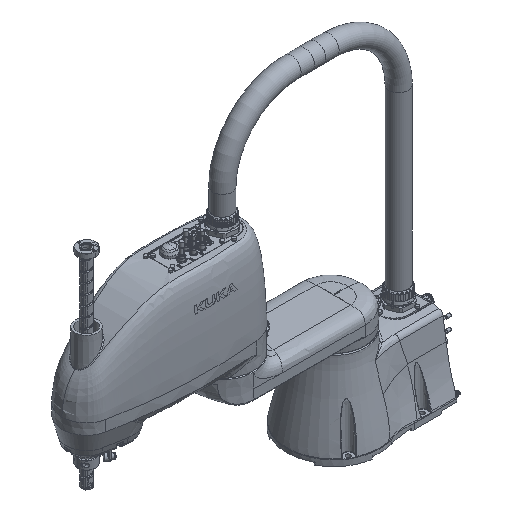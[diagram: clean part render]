
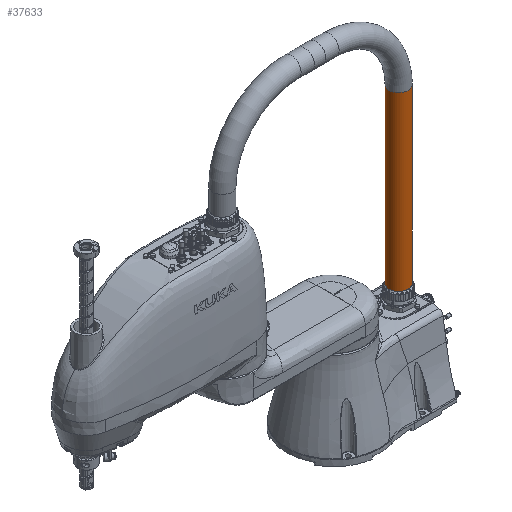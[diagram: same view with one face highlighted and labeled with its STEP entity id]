
A CAD part, isometric view. The second image highlights one B-rep face of the part: STEP entity #37633.
In plain terms, the highlighted cylindrical face has radius 19.5 mm (diameter 39 mm), a full revolution.
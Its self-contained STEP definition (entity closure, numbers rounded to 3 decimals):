
#23892=CYLINDRICAL_SURFACE('',#105702,19.5);
#29744=FACE_BOUND('',#48746,.T.);
#29745=FACE_BOUND('',#48747,.T.);
#32980=CIRCLE('',#105700,19.5);
#32981=CIRCLE('',#105701,19.5);
#37633=ADVANCED_FACE('',(#29744,#29745),#23892,.T.);
#48746=EDGE_LOOP('',(#79333));
#48747=EDGE_LOOP('',(#79334));
#79333=ORIENTED_EDGE('',*,*,#98035,.F.);
#79334=ORIENTED_EDGE('',*,*,#98036,.T.);
#86730=VERTEX_POINT('',#461290);
#86731=VERTEX_POINT('',#461292);
#98035=EDGE_CURVE('',#86730,#86730,#32980,.T.);
#98036=EDGE_CURVE('',#86731,#86731,#32981,.T.);
#105700=AXIS2_PLACEMENT_3D('',#461289,#124601,#124602);
#105701=AXIS2_PLACEMENT_3D('',#461291,#124603,#124604);
#105702=AXIS2_PLACEMENT_3D('',#461293,#124605,#124606);
#124601=DIRECTION('',(0.,0.,-1.));
#124602=DIRECTION('',(-1.,0.,0.));
#124603=DIRECTION('',(0.,0.,-1.));
#124604=DIRECTION('',(-1.,0.,0.));
#124605=DIRECTION('',(0.,0.,-1.));
#124606=DIRECTION('',(-1.,0.,0.));
#461289=CARTESIAN_POINT('',(0.,0.,-30.));
#461290=CARTESIAN_POINT('',(-19.5,0.,-30.));
#461291=CARTESIAN_POINT('',(0.,0.,318.5));
#461292=CARTESIAN_POINT('',(-19.5,0.,318.5));
#461293=CARTESIAN_POINT('',(0.,0.,318.5));
